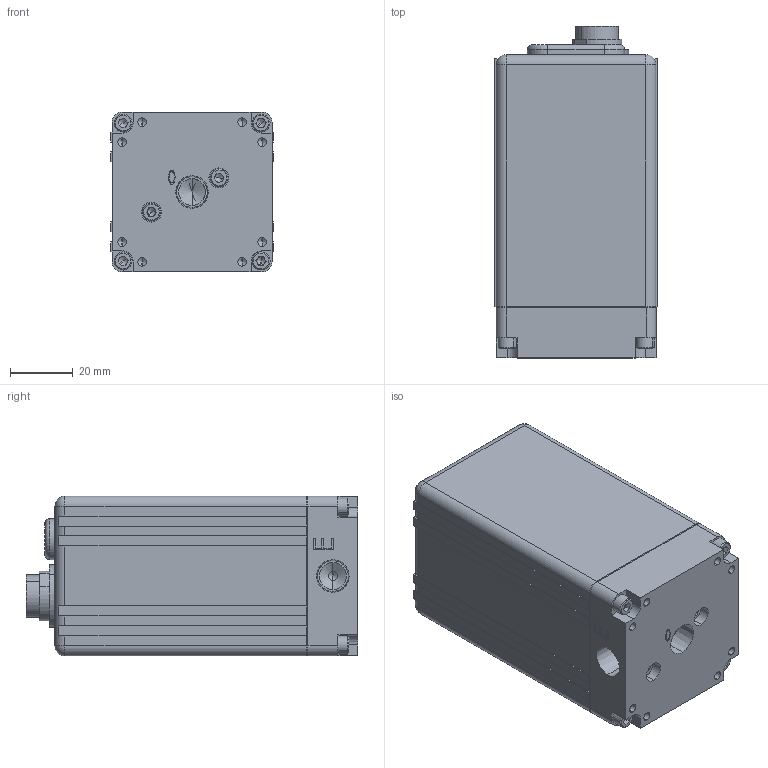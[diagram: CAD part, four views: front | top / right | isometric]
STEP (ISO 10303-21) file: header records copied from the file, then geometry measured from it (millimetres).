
FILE_DESCRIPTION (( 'STEP AP203' ), '1' );
FILE_NAME ('QB1XAPEEZP100MBG7AHQ.STEP', '2024-03-25T19:04:10', ( '' ), ( '' ), 'SwSTEP 2.0', 'SolidWorks 2024', '' );
FILE_SCHEMA (( 'CONFIG_CONTROL_DESIGN' ));
Length unit declared in the file: inch
Products named in the file (8): H0901; H1049_HX-SHCS 0.138-32x0.5x0.5-S; M37002HP; QB1XAPEEZP100MBG7AHQ; H3053; M3050S552; H1368; H63258_HX-SHCS 0.138-32x0.625x0.625-S
Assembly tree (11 placements, depth 2):
  QB1XAPEEZP100MBG7AHQ
    M37002HP
    M3050S552
    H1049_HX-SHCS 0.138-32x0.5x0.5-S  x4
    H3053
    H63258_HX-SHCS 0.138-32x0.625x0.625-S  x2
    H1368
    H0901
Bounding box: 51.56 x 105.41 x 50.81 mm (x, y, z)
Volume: 81625.5 mm3; surface area: 54857.6 mm2
Topology: 11 solids, 11 shells, 1205 faces, 3104 edges, 1925 vertices
Faces by surface type: cone 519, cylinder 383, plane 269, bspline 16, torus 14, sphere 4
Entity records: 23392 total; most frequent: CARTESIAN_POINT 5050, DIRECTION 3864, ORIENTED_EDGE 3520, EDGE_CURVE 1760, AXIS2_PLACEMENT_3D 1469, VERTEX_POINT 1121, VECTOR 926, LINE 926
